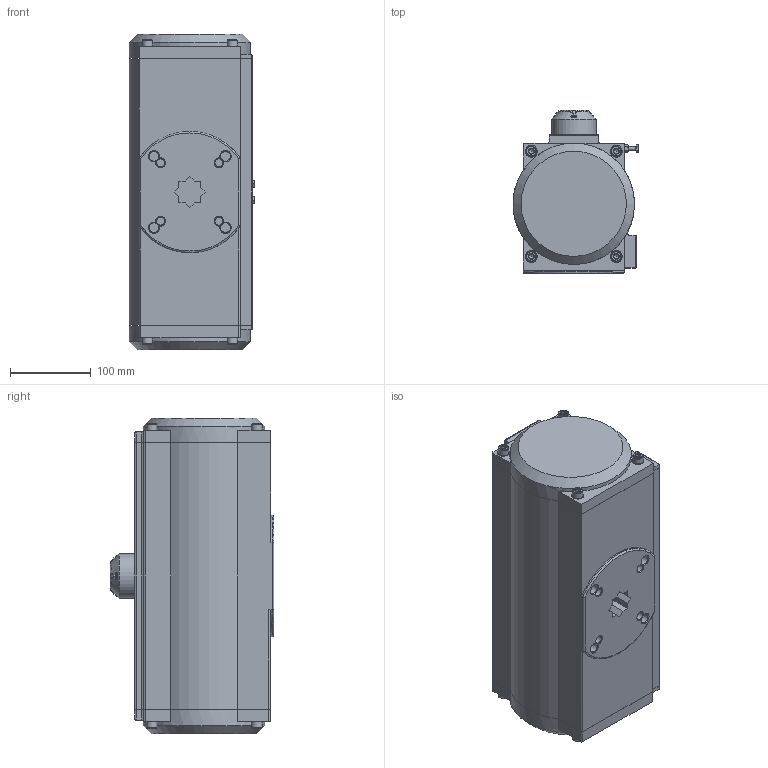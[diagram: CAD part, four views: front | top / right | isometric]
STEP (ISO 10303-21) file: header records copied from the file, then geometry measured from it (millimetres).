
FILE_DESCRIPTION(('STEP AP242'), '1');
FILE_NAME('PA-DA-140 砅槻斁瀔魤鍱 DN.ru', '2026-04-17T21:24:04', ('DN.ru'), (''), 'C3D Converter', 'C3D Toolkit', '');
FILE_SCHEMA(('AP242_MANAGED_MODEL_BASED_3D_ENGINEERING_MIM_LF { 1 0 10303 442 1 1 4 }'));
Length unit declared in the file: millimetre
Products named in the file (1): PA-DA-140
Bounding box: 155.5 x 202 x 390 mm (x, y, z)
Volume: 8566207.9 mm3; surface area: 369619.2 mm2
Topology: 1 solids, 4 shells, 1023 faces, 2675 edges, 1740 vertices
Faces by surface type: plane 461, extrusion 345, cylinder 113, cone 91, torus 13
Full cylindrical faces by diameter (mm): 4.724 x2, 5 x12, 6 x8, 8 x17, 10 x4, 12 x4, 13 x8, 15 x8, 55 x1, 80 x2, 150 x2
Entity records: 54729 total; most frequent: CARTESIAN_POINT 23764, ORIENTED_EDGE 5058, DIRECTION 3470, EDGE_CURVE 2529, VERTEX_POINT 1724, B_SPLINE_CURVE_WITH_KNOTS 1433, VECTOR 1428, EDGE_LOOP 1253
